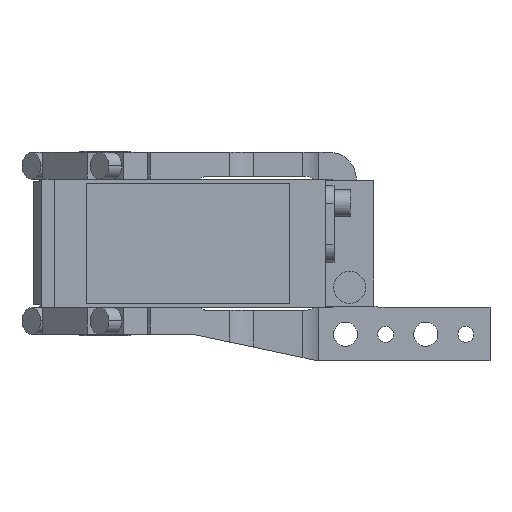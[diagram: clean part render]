
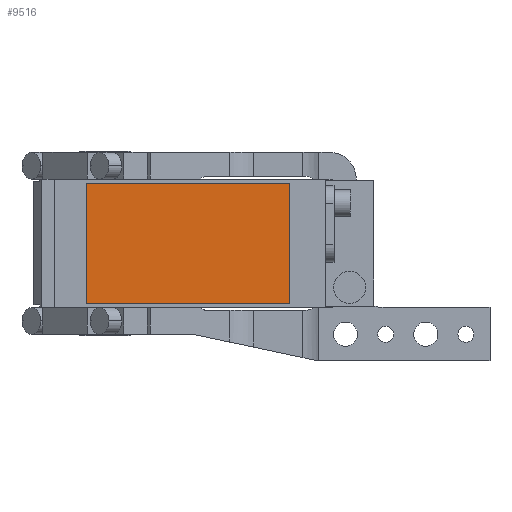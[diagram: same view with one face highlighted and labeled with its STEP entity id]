
A CAD part, front view. The second image highlights one B-rep face of the part: STEP entity #9516.
In plain terms, the highlighted planar face has unit normal (0, -1, 0).
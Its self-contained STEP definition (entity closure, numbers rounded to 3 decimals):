
#9 = ORIENTED_EDGE ( 'NONE', *, *, #2532, .T. ) ;
#760 = VECTOR ( 'NONE', #4547, 1000. ) ;
#1255 = CARTESIAN_POINT ( 'NONE',  ( -7., -280.5, -22.5 ) ) ;
#1384 = VECTOR ( 'NONE', #2107, 1000. ) ;
#1572 = VERTEX_POINT ( 'NONE', #2785 ) ;
#1887 = PLANE ( 'NONE',  #3831 ) ;
#1955 = EDGE_CURVE ( 'NONE', #1572, #8135, #7334, .T. ) ;
#2107 = DIRECTION ( 'NONE',  ( -1., 0., 0. ) ) ;
#2163 = VECTOR ( 'NONE', #13348, 1000. ) ;
#2532 = EDGE_CURVE ( 'NONE', #9136, #1572, #8991, .T. ) ;
#2785 = CARTESIAN_POINT ( 'NONE',  ( 69., -280.5, -22.5 ) ) ;
#3300 = CARTESIAN_POINT ( 'NONE',  ( -7., -280.5, 22.5 ) ) ;
#3346 = EDGE_LOOP ( 'NONE', ( #7251, #9, #4155, #12362 ) ) ;
#3831 = AXIS2_PLACEMENT_3D ( 'NONE', #11595, #6294, #5171 ) ;
#4155 = ORIENTED_EDGE ( 'NONE', *, *, #1955, .T. ) ;
#4476 = EDGE_CURVE ( 'NONE', #12861, #9136, #8072, .T. ) ;
#4547 = DIRECTION ( 'NONE',  ( 1., 0., 0. ) ) ;
#5171 = DIRECTION ( 'NONE',  ( 0., 0., -1. ) ) ;
#6294 = DIRECTION ( 'NONE',  ( 0., -1., 0. ) ) ;
#7251 = ORIENTED_EDGE ( 'NONE', *, *, #4476, .T. ) ;
#7307 = LINE ( 'NONE', #3300, #1384 ) ;
#7334 = LINE ( 'NONE', #8108, #13849 ) ;
#7434 = FACE_OUTER_BOUND ( 'NONE', #3346, .T. ) ;
#8072 = LINE ( 'NONE', #9968, #2163 ) ;
#8108 = CARTESIAN_POINT ( 'NONE',  ( 69., -280.5, 22.5 ) ) ;
#8135 = VERTEX_POINT ( 'NONE', #8164 ) ;
#8164 = CARTESIAN_POINT ( 'NONE',  ( 69., -280.5, 22.5 ) ) ;
#8991 = LINE ( 'NONE', #1255, #760 ) ;
#9136 = VERTEX_POINT ( 'NONE', #13174 ) ;
#9516 = ADVANCED_FACE ( 'NONE', ( #7434 ), #1887, .T. ) ;
#9745 = CARTESIAN_POINT ( 'NONE',  ( -7., -280.5, 22.5 ) ) ;
#9968 = CARTESIAN_POINT ( 'NONE',  ( -7., -280.5, 22.5 ) ) ;
#10419 = DIRECTION ( 'NONE',  ( 0., 0., 1. ) ) ;
#11595 = CARTESIAN_POINT ( 'NONE',  ( 0., -280.5, 0. ) ) ;
#12362 = ORIENTED_EDGE ( 'NONE', *, *, #13837, .T. ) ;
#12861 = VERTEX_POINT ( 'NONE', #9745 ) ;
#13174 = CARTESIAN_POINT ( 'NONE',  ( -7., -280.5, -22.5 ) ) ;
#13348 = DIRECTION ( 'NONE',  ( 0., 0., -1. ) ) ;
#13837 = EDGE_CURVE ( 'NONE', #8135, #12861, #7307, .T. ) ;
#13849 = VECTOR ( 'NONE', #10419, 1000. ) ;
